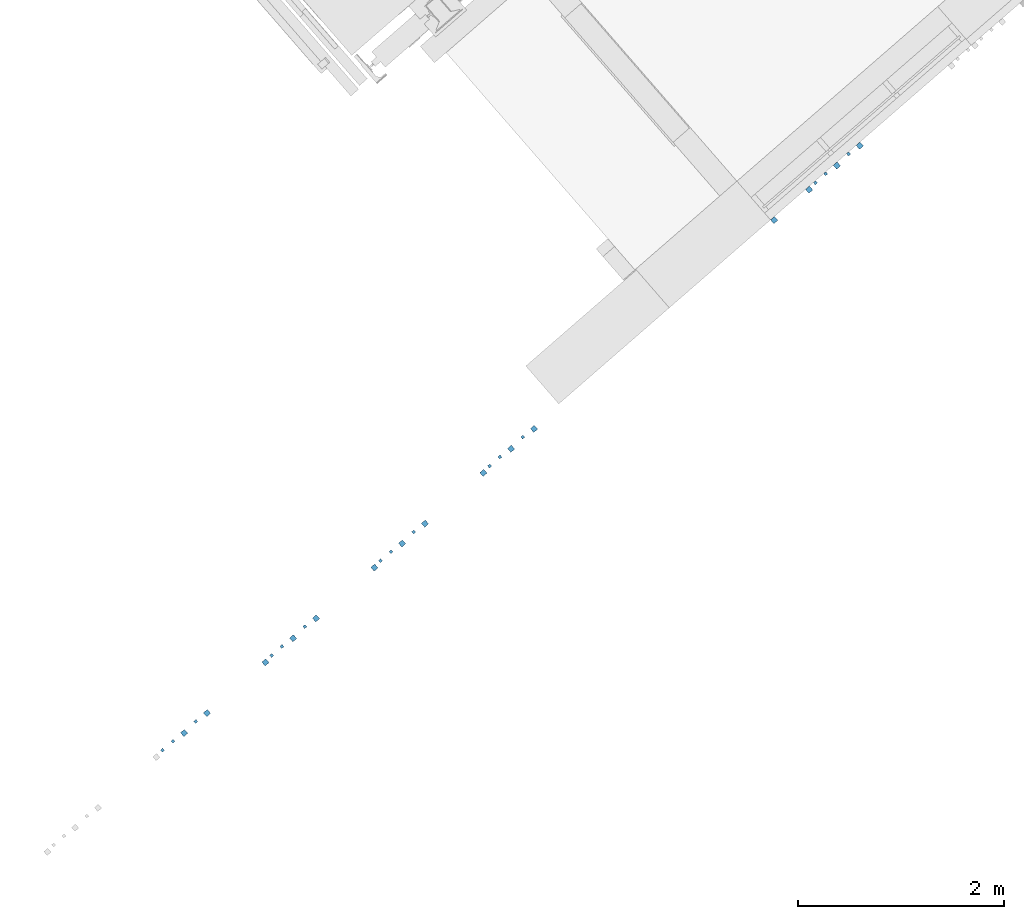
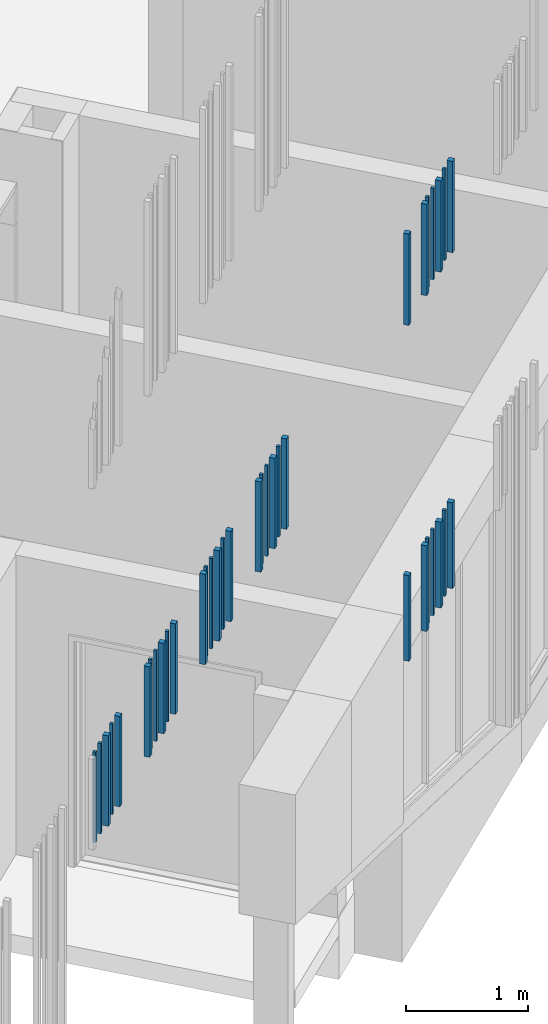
# One storey, part 89 of 124: 37 walls.
"""IFC2X3 building model written with IfcOpenShell, lengths in millimetres."""

from ifc_helpers import new_model, entity, si_unit, converted_unit, derived_unit, money_unit, direction, frame, origin_with_axes, place, context, subcontext, project, spatial, faceted_brep, material, type_object, element, save


model = new_model("IFC2X3")

# Units and contexts
model_context = context("Model", 3, precision=1e-05, world=origin_with_axes(), true_north=direction((0.0, 1.0)))
body_context = subcontext(model_context, "Body", "Model", "MODEL_VIEW")
ifc_project = project(units=[si_unit("LENGTHUNIT", "METRE", prefix="MILLI"), si_unit("AREAUNIT", "SQUARE_METRE"), si_unit("VOLUMEUNIT", "CUBIC_METRE"), converted_unit("PLANEANGLEUNIT", "DEGREE", entity("IfcPlaneAngleMeasure", 0.0174532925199), si_unit("PLANEANGLEUNIT", "RADIAN"), dimensions=[0, 0, 0, 0, 0, 0, 0]), si_unit("SOLIDANGLEUNIT", "STERADIAN"), money_unit("EUR"), converted_unit("TIMEUNIT", "Year", entity("IfcTimeMeasure", 31556926.0), si_unit("TIMEUNIT", "SECOND"), dimensions=[0, 0, 1, 0, 0, 0, 0]), si_unit("MASSUNIT", "GRAM", prefix="KILO"), si_unit("THERMODYNAMICTEMPERATUREUNIT", "DEGREE_CELSIUS"), si_unit("LUMINOUSINTENSITYUNIT", "LUMEN"), si_unit("ENERGYUNIT", "JOULE", prefix="MEGA"), derived_unit("THERMALCONDUCTANCEUNIT", [(si_unit("POWERUNIT", "WATT"), 1), (si_unit("LENGTHUNIT", "METRE"), -1), (si_unit("THERMODYNAMICTEMPERATUREUNIT", "KELVIN"), -1)]), derived_unit("SPECIFICHEATCAPACITYUNIT", [(si_unit("ENERGYUNIT", "JOULE"), 1), (si_unit("MASSUNIT", "GRAM", prefix="KILO"), -1), (si_unit("THERMODYNAMICTEMPERATUREUNIT", "KELVIN"), -1)]), derived_unit("MASSDENSITYUNIT", [(si_unit("MASSUNIT", "GRAM", prefix="KILO"), 1), (si_unit("VOLUMEUNIT", "CUBIC_METRE"), -1)])], contexts=[model_context])

# Site, building, storey
site_placement = place(None, origin_with_axes())
site = spatial("IfcSite", under=ifc_project, at=site_placement, Name="Site", CompositionType="ELEMENT")
building_placement = place(site_placement, origin_with_axes())
building = spatial("IfcBuilding", under=site, at=building_placement, Name="Building", CompositionType="ELEMENT")
storey_placement = place(building_placement, frame((0.0, 0.0, -1615.0), z_axis=(0.0, 0.0, 1.0), x_axis=(1.0, 0.0, 0.0)))
storey = spatial("IfcBuildingStorey", under=building, at=storey_placement, Name="0  korrus", CompositionType="ELEMENT", Elevation=-1615.0)

# Walls
ifc_material = material(Name="Site specified")
wall_type = type_object("IfcWallType", Name="Puitfassaadi ribistik", PredefinedType="NOTDEFINED")
wall_1_placement = place(storey_placement, frame((148347.830735, 73587.4184944, 5915.0), z_axis=(0.0, 0.0, 1.0), x_axis=(-0.754709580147, -0.656059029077, 0.0)))
element("IfcWall", 1, at=wall_1_placement, inside=storey, type_object=wall_type, material=ifc_material, Name="Site specified", context=body_context, shape_type="Brep", body=[
    faceted_brep([(25.0, 25.0, 906.0), (25.0, 25.0, 0.0), (-25.0, 25.0, 0.0), (-25.0, 25.0, 906.0), (25.0, -25.0, 906.0), (25.0, -25.0, 0.0), (-25.0, -25.0, 0.0), (-25.0, -25.0, 906.0)], [[[0, 1, 2, 3]], [[4, 5, 1, 0]], [[2, 1, 5, 6]], [[3, 2, 6, 7]], [[4, 0, 3, 7]], [[7, 6, 5, 4]]]),
])
for number, where, z_axis, x_axis, name in (
    (2, (148139.104769, 73420.5509232, 5915.0), (0.0, 0.0, 1.0), (-0.754709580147, -0.656059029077, 0.0), "Site specified"),
    (3, (148239.481142, 73507.8067735, 5915.0), (0.0, 0.0, 1.0), (-0.754709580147, -0.656059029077, 0.0), "Site specified"),
):
    element("IfcWall", number, at=place(storey_placement, frame(where, z_axis=z_axis, x_axis=x_axis)), inside=storey, type_object=wall_type, material=ifc_material, Name=name, context=body_context, shape_type="Brep", body=[
        faceted_brep([(14.0, 14.0, 906.0), (14.0, 14.0, 0.0), (-14.0, 14.0, 0.0), (-14.0, 14.0, 906.0), (14.0, -14.0, 906.0), (14.0, -14.0, 0.0), (-14.0, -14.0, 0.0), (-14.0, -14.0, 906.0)], [[[0, 1, 2, 3]], [[4, 5, 1, 0]], [[2, 1, 5, 6]], [[3, 2, 6, 7]], [[4, 0, 3, 7]], [[7, 6, 5, 4]]]),
    ])
wall_2_placement = place(storey_placement, frame((148079.149872, 73353.8577843, 5915.0), z_axis=(0.0, 0.0, 1.0), x_axis=(-0.754709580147, -0.656059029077, 0.0)))
element("IfcWall", 4, at=wall_2_placement, inside=storey, type_object=wall_type, material=ifc_material, Name="Site specified", context=body_context, shape_type="Brep", body=[
    faceted_brep([(25.0, 25.0, 906.0), (25.0, 25.0, 0.0), (-25.0, 25.0, 0.0), (-25.0, 25.0, 906.0), (25.0, -25.0, 906.0), (25.0, -25.0, 0.0), (-25.0, -25.0, 0.0), (-25.0, -25.0, 906.0)], [[[0, 1, 2, 3]], [[4, 5, 1, 0]], [[2, 1, 5, 6]], [[3, 2, 6, 7]], [[4, 0, 3, 7]], [[7, 6, 5, 4]]]),
])
wall_3_placement = place(storey_placement, frame((148460.611027, 73700.0320501, 5915.0), z_axis=(0.0, 0.0, 1.0), x_axis=(-0.754709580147, -0.656059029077, 0.0)))
element("IfcWall", 5, at=wall_3_placement, inside=storey, type_object=wall_type, material=ifc_material, Name="Site specified", context=body_context, shape_type="Brep", body=[
    faceted_brep([(14.0, 14.0, 906.0), (14.0, 14.0, 0.0), (-14.0, 14.0, 0.0), (-14.0, 14.0, 906.0), (14.0, -14.0, 906.0), (14.0, -14.0, 0.0), (-14.0, -14.0, 0.0), (-14.0, -14.0, 906.0)], [[[0, 1, 2, 3]], [[4, 5, 1, 0]], [[2, 1, 5, 6]], [[3, 2, 6, 7]], [[4, 0, 3, 7]], [[7, 6, 5, 4]]]),
])
wall_4_placement = place(storey_placement, frame((148569.715349, 73780.2998475, 5915.0), z_axis=(0.0, 0.0, 1.0), x_axis=(-0.754709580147, -0.656059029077, 0.0)))
element("IfcWall", 6, at=wall_4_placement, inside=storey, type_object=wall_type, material=ifc_material, Name="Site specified", context=body_context, shape_type="Brep", body=[
    faceted_brep([(25.0, 25.0, 906.0), (25.0, 25.0, 0.0), (-25.0, 25.0, 0.0), (-25.0, 25.0, 906.0), (25.0, -25.0, 906.0), (25.0, -25.0, 0.0), (-25.0, -25.0, 0.0), (-25.0, -25.0, 906.0)], [[[0, 1, 2, 3]], [[4, 5, 1, 0]], [[2, 1, 5, 6]], [[3, 2, 6, 7]], [[4, 0, 3, 7]], [[7, 6, 5, 4]]]),
])
for number, where, z_axis, x_axis, name in (
    (7, (146347.424203, 71863.0667687, 5915.0), (0.0, 0.0, 1.0), (-0.754709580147, -0.656059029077, 0.0), "Site specified"),
    (8, (146025.917944, 71583.5856419, 5915.0), (0.0, 0.0, 1.0), (-0.754709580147, -0.656059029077, 0.0), "Site specified"),
    (9, (146126.294318, 71670.8414922, 5915.0), (0.0, 0.0, 1.0), (-0.754709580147, -0.656059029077, 0.0), "Site specified"),
):
    element("IfcWall", number, at=place(storey_placement, frame(where, z_axis=z_axis, x_axis=x_axis)), inside=storey, type_object=wall_type, material=ifc_material, Name=name, context=body_context, shape_type="Brep", body=[
        faceted_brep([(14.0, 14.0, 906.0), (14.0, 14.0, 0.0), (-14.0, 14.0, 0.0), (-14.0, 14.0, 906.0), (14.0, -14.0, 906.0), (14.0, -14.0, 0.0), (-14.0, -14.0, 0.0), (-14.0, -14.0, 906.0)], [[[0, 1, 2, 3]], [[4, 5, 1, 0]], [[2, 1, 5, 6]], [[3, 2, 6, 7]], [[4, 0, 3, 7]], [[7, 6, 5, 4]]]),
    ])
for number, where, z_axis, x_axis, name in (
    (10, (145965.963048, 71516.8925029, 5915.0), (0.0, 0.0, 1.0), (-0.754709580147, -0.656059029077, 0.0), "Site specified"),
    (11, (146234.64391, 71750.4532131, 5915.0), (0.0, 0.0, 1.0), (-0.754709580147, -0.656059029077, 0.0), "Site specified"),
    (12, (146456.528525, 71943.3345662, 5915.0), (0.0, 0.0, 1.0), (-0.754709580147, -0.656059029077, 0.0), "Site specified"),
    (13, (145178.050498, 70831.9705724, 5915.0), (0.0, 0.0, 1.0), (-0.754709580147, -0.656059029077, 0.0), "Site specified"),
    (14, (145399.935113, 71024.8519255, 5915.0), (0.0, 0.0, 1.0), (-0.754709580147, -0.656059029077, 0.0), "Site specified"),
):
    element("IfcWall", number, at=place(storey_placement, frame(where, z_axis=z_axis, x_axis=x_axis)), inside=storey, type_object=wall_type, material=ifc_material, Name=name, context=body_context, shape_type="Brep", body=[
        faceted_brep([(25.0, 25.0, 906.0), (25.0, 25.0, 0.0), (-25.0, 25.0, 0.0), (-25.0, 25.0, 906.0), (25.0, -25.0, 906.0), (25.0, -25.0, 0.0), (-25.0, -25.0, 0.0), (-25.0, -25.0, 906.0)], [[[0, 1, 2, 3]], [[4, 5, 1, 0]], [[2, 1, 5, 6]], [[3, 2, 6, 7]], [[4, 0, 3, 7]], [[7, 6, 5, 4]]]),
    ])
for number, where, z_axis, x_axis, name in (
    (15, (145290.830791, 70944.5841281, 5915.0), (0.0, 0.0, 1.0), (-0.754709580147, -0.656059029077, 0.0), "Site specified"),
    (16, (144969.324532, 70665.1030012, 5915.0), (0.0, 0.0, 1.0), (-0.754709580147, -0.656059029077, 0.0), "Site specified"),
    (17, (145069.700905, 70752.3588515, 5915.0), (0.0, 0.0, 1.0), (-0.754709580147, -0.656059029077, 0.0), "Site specified"),
    (18, (147404.017615, 72781.5494094, 5915.0), (0.0, 0.0, 1.0), (-0.754709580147, -0.656059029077, 0.0), "Site specified"),
    (19, (147082.511356, 72502.0682825, 5915.0), (0.0, 0.0, 1.0), (-0.754709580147, -0.656059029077, 0.0), "Site specified"),
    (20, (147182.88773, 72589.3241329, 5915.0), (0.0, 0.0, 1.0), (-0.754709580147, -0.656059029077, 0.0), "Site specified"),
):
    element("IfcWall", number, at=place(storey_placement, frame(where, z_axis=z_axis, x_axis=x_axis)), inside=storey, type_object=wall_type, material=ifc_material, Name=name, context=body_context, shape_type="Brep", body=[
        faceted_brep([(14.0, 14.0, 906.0), (14.0, 14.0, 0.0), (-14.0, 14.0, 0.0), (-14.0, 14.0, 906.0), (14.0, -14.0, 906.0), (14.0, -14.0, 0.0), (-14.0, -14.0, 0.0), (-14.0, -14.0, 906.0)], [[[0, 1, 2, 3]], [[4, 5, 1, 0]], [[2, 1, 5, 6]], [[3, 2, 6, 7]], [[4, 0, 3, 7]], [[7, 6, 5, 4]]]),
    ])
for number, where, z_axis, x_axis, name in (
    (21, (147022.55646, 72435.3751436, 5915.0), (0.0, 0.0, 1.0), (-0.754709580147, -0.656059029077, 0.0), "Site specified"),
    (22, (147291.237322, 72668.9358537, 5915.0), (0.0, 0.0, 1.0), (-0.754709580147, -0.656059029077, 0.0), "Site specified"),
):
    element("IfcWall", number, at=place(storey_placement, frame(where, z_axis=z_axis, x_axis=x_axis)), inside=storey, type_object=wall_type, material=ifc_material, Name=name, context=body_context, shape_type="Brep", body=[
        faceted_brep([(25.0, 25.0, 906.0), (25.0, 25.0, 0.0), (-25.0, 25.0, 0.0), (-25.0, 25.0, 906.0), (25.0, -25.0, 906.0), (25.0, -25.0, 0.0), (-25.0, -25.0, 0.0), (-25.0, -25.0, 906.0)], [[[0, 1, 2, 3]], [[4, 5, 1, 0]], [[2, 1, 5, 6]], [[3, 2, 6, 7]], [[4, 0, 3, 7]], [[7, 6, 5, 4]]]),
    ])
for number, where, z_axis, x_axis, name in (
    (23, (151728.17901, 76525.9104198, 5915.0), (0.0, 0.0, 1.0), (-0.754709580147, -0.656059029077, 0.0), "Site specified"),
    (24, (150898.00815, 75804.2539016, 5915.0), (0.0, 0.0, 1.0), (-0.754709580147, -0.656059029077, 0.0), "Site specified"),
    (25, (151506.294395, 76333.0290667, 5915.0), (0.0, 0.0, 1.0), (-0.754709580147, -0.656059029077, 0.0), "Site specified"),
):
    element("IfcWall", number, at=place(storey_placement, frame(where, z_axis=z_axis, x_axis=x_axis)), inside=storey, type_object=wall_type, material=ifc_material, Name=name, context=body_context, shape_type="Brep", body=[
        faceted_brep([(25.0, 25.0, 915.0), (25.0, 25.0, 0.0), (-25.0, 25.0, 0.0), (-25.0, 25.0, 915.0), (25.0, -25.0, 915.0), (25.0, -25.0, 0.0), (-25.0, -25.0, 0.0), (-25.0, -25.0, 915.0)], [[[0, 1, 2, 3]], [[4, 5, 1, 0]], [[2, 1, 5, 6]], [[3, 2, 6, 7]], [[4, 0, 3, 7]], [[7, 6, 5, 4]]]),
    ])
wall_5_placement = place(storey_placement, frame((151619.074688, 76445.6426223, 5915.0), z_axis=(0.0, 0.0, 1.0), x_axis=(-0.754709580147, -0.656059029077, 0.0)))
element("IfcWall", 26, at=wall_5_placement, inside=storey, type_object=wall_type, material=ifc_material, Name="Site specified", context=body_context, shape_type="Brep", body=[
    faceted_brep([(14.0, 14.0, 915.0), (14.0, 14.0, 0.0), (-14.0, 14.0, 0.0), (-14.0, 14.0, 915.0), (14.0, -14.0, 915.0), (14.0, -14.0, 0.0), (-14.0, -14.0, 0.0), (-14.0, -14.0, 915.0)], [[[0, 1, 2, 3]], [[4, 5, 1, 0]], [[2, 1, 5, 6]], [[3, 2, 6, 7]], [[4, 0, 3, 7]], [[7, 6, 5, 4]]]),
])
wall_6_placement = place(storey_placement, frame((151237.613533, 76099.4683565, 5915.0), z_axis=(0.0, 0.0, 1.0), x_axis=(-0.754709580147, -0.656059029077, 0.0)))
element("IfcWall", 27, at=wall_6_placement, inside=storey, type_object=wall_type, material=ifc_material, Name="Site specified", context=body_context, shape_type="Brep", body=[
    faceted_brep([(25.0, 25.0, 915.0), (25.0, 25.0, 0.0), (-25.0, 25.0, 0.0), (-25.0, 25.0, 915.0), (25.0, -25.0, 915.0), (25.0, -25.0, 0.0), (-25.0, -25.0, 0.0), (-25.0, -25.0, 915.0)], [[[0, 1, 2, 3]], [[4, 5, 1, 0]], [[2, 1, 5, 6]], [[3, 2, 6, 7]], [[4, 0, 3, 7]], [[7, 6, 5, 4]]]),
])
for number, where, z_axis, x_axis, name in (
    (28, (151297.568429, 76166.1614955, 5915.0), (0.0, 0.0, 1.0), (-0.754709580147, -0.656059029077, 0.0), "Site specified"),
    (29, (151397.944802, 76253.4173458, 5915.0), (0.0, 0.0, 1.0), (-0.754709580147, -0.656059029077, 0.0), "Site specified"),
):
    element("IfcWall", number, at=place(storey_placement, frame(where, z_axis=z_axis, x_axis=x_axis)), inside=storey, type_object=wall_type, material=ifc_material, Name=name, context=body_context, shape_type="Brep", body=[
        faceted_brep([(14.0, 14.0, 915.0), (14.0, 14.0, 0.0), (-14.0, 14.0, 0.0), (-14.0, 14.0, 915.0), (14.0, -14.0, 915.0), (14.0, -14.0, 0.0), (-14.0, -14.0, 0.0), (-14.0, -14.0, 915.0)], [[[0, 1, 2, 3]], [[4, 5, 1, 0]], [[2, 1, 5, 6]], [[3, 2, 6, 7]], [[4, 0, 3, 7]], [[7, 6, 5, 4]]]),
    ])
for number, where, z_axis, x_axis, name in (
    (30, (150898.00815, 75804.2539016, 2550.0), (0.0, 0.0, 1.0), (-0.754709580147, -0.656059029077, 0.0), "Site specified"),
    (31, (151728.17901, 76525.9104198, 2550.0), (0.0, 0.0, 1.0), (-0.754709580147, -0.656059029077, 0.0), "Site specified"),
):
    element("IfcWall", number, at=place(storey_placement, frame(where, z_axis=z_axis, x_axis=x_axis)), inside=storey, type_object=wall_type, material=ifc_material, Name=name, context=body_context, shape_type="Brep", body=[
        faceted_brep([(25.0, 25.0, 860.000018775), (25.0, 25.0, 0.0), (-25.0, 25.0, 0.0), (-25.0, 25.0, 860.000018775), (25.0, -25.0, 860.000018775), (25.0, -25.0, 0.0), (-25.0, -25.0, 0.0), (-25.0, -25.0, 860.000018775)], [[[0, 1, 2, 3]], [[4, 5, 1, 0]], [[2, 1, 5, 6]], [[3, 2, 6, 7]], [[4, 0, 3, 7]], [[7, 6, 5, 4]]]),
    ])
for number, where, z_axis, x_axis, name in (
    (32, (151619.074688, 76445.6426223, 2550.0), (0.0, 0.0, 1.0), (-0.754709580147, -0.656059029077, 0.0), "Site specified"),
    (33, (151297.568429, 76166.1614955, 2550.0), (0.0, 0.0, 1.0), (-0.754709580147, -0.656059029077, 0.0), "Site specified"),
    (34, (151397.944802, 76253.4173458, 2550.0), (0.0, 0.0, 1.0), (-0.754709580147, -0.656059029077, 0.0), "Site specified"),
):
    element("IfcWall", number, at=place(storey_placement, frame(where, z_axis=z_axis, x_axis=x_axis)), inside=storey, type_object=wall_type, material=ifc_material, Name=name, context=body_context, shape_type="Brep", body=[
        faceted_brep([(14.0, 14.0, 860.000018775), (14.0, 14.0, 0.0), (-14.0, 14.0, 0.0), (-14.0, 14.0, 860.000018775), (14.0, -14.0, 860.000018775), (14.0, -14.0, 0.0), (-14.0, -14.0, 0.0), (-14.0, -14.0, 860.000018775)], [[[0, 1, 2, 3]], [[4, 5, 1, 0]], [[2, 1, 5, 6]], [[3, 2, 6, 7]], [[4, 0, 3, 7]], [[7, 6, 5, 4]]]),
    ])
for number, where, z_axis, x_axis, name in (
    (35, (151506.294395, 76333.0290667, 2550.0), (0.0, 0.0, 1.0), (-0.754709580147, -0.656059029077, 0.0), "Site specified"),
    (36, (151237.613533, 76099.4683565, 2550.0), (0.0, 0.0, 1.0), (-0.754709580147, -0.656059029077, 0.0), "Site specified"),
):
    element("IfcWall", number, at=place(storey_placement, frame(where, z_axis=z_axis, x_axis=x_axis)), inside=storey, type_object=wall_type, material=ifc_material, Name=name, context=body_context, shape_type="Brep", body=[
        faceted_brep([(25.0, 25.0, 860.000018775), (25.0, 25.0, 0.0), (-25.0, 25.0, 0.0), (-25.0, 25.0, 860.000018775), (25.0, -25.0, 860.000018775), (25.0, -25.0, 0.0), (-25.0, -25.0, 0.0), (-25.0, -25.0, 860.000018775)], [[[0, 1, 2, 3]], [[4, 5, 1, 0]], [[2, 1, 5, 6]], [[3, 2, 6, 7]], [[4, 0, 3, 7]], [[7, 6, 5, 4]]]),
    ])
wall_7_placement = place(storey_placement, frame((147513.121937, 72861.8172068, 5915.0), z_axis=(0.0, 0.0, 1.0), x_axis=(-0.754709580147, -0.656059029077, 0.0)))
element("IfcWall", 37, at=wall_7_placement, inside=storey, type_object=wall_type, material=ifc_material, Name="Site specified", context=body_context, shape_type="Brep", body=[
    faceted_brep([(25.0, 25.0, 906.0), (25.0, 25.0, 0.0), (-25.0, 25.0, 0.0), (-25.0, 25.0, 906.0), (25.0, -25.0, 906.0), (25.0, -25.0, 0.0), (-25.0, -25.0, 0.0), (-25.0, -25.0, 906.0)], [[[0, 1, 2, 3]], [[4, 5, 1, 0]], [[2, 1, 5, 6]], [[3, 2, 6, 7]], [[4, 0, 3, 7]], [[7, 6, 5, 4]]]),
])

save(model, "model.ifc")
